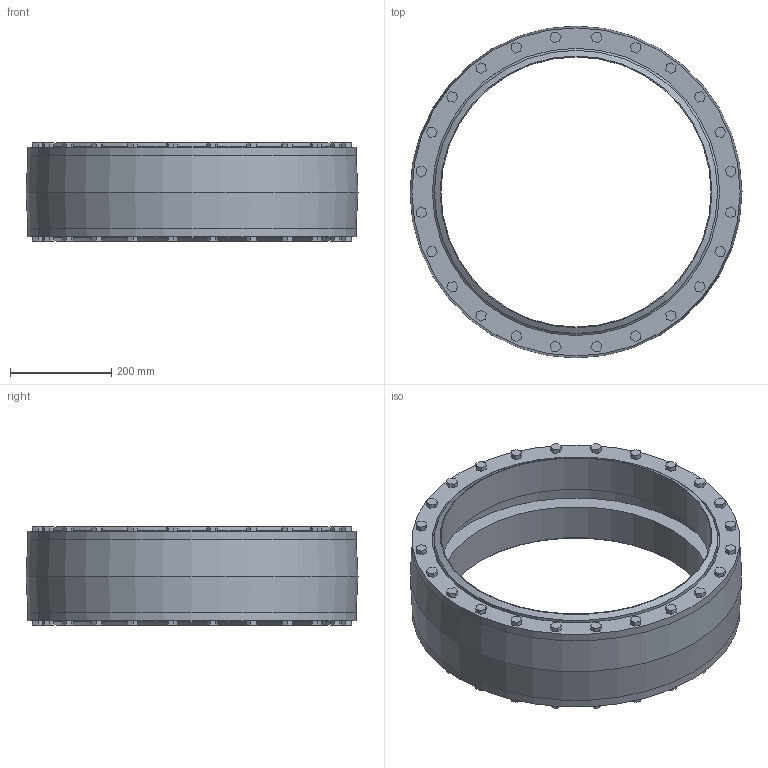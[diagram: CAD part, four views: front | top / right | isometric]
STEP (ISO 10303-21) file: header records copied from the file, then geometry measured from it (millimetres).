
FILE_DESCRIPTION(/* description */ ('VIC EXPANSION JOINT COUPLING 152-A','CAx-IF Rec.Pracs.---Representation and Presentation of Product Manufacturing Information (PMI)---4.0---2014-10-13'),/* implementation_level */ '2;1');
FILE_NAME(/* name */ 'C:\Users\kkamble\AppData\Roaming\Autodesk\ApplicationPlugins\Back Up\Victaulic_Vic-Ring_Coupling Expansion Joint_Style 152A (OGR)\Victaulic_Vic-Ring_Coupling Expansion Joint_Style 152A (OGR)_22 (550).stp',/* time_stamp */ '2020-09-10T11:34:09+05:00',/* author */ ('jheald'),/* organization */ ('Victaulic'),/* preprocessor_version */ 'ST-DEVELOPER v17.2',/* originating_system */ 'Autodesk Inventor 2019',/* authorisation */ '');
FILE_SCHEMA (('AP242_MANAGED_MODEL_BASED_3D_ENGINEERING_MIM_LF { 1 0 10303 442 1 1 4 }'));
Length unit declared in the file: inch
Products named in the file (1): 152A-22.0
Bounding box: 655.23 x 655.23 x 193.55 mm (x, y, z)
Volume: 16151748 mm3; surface area: 1637082.9 mm2
Topology: 1 solids, 1 shells, 373 faces, 963 edges, 652 vertices
Faces by surface type: plane 350, cylinder 15, cone 6, torus 2
Full cylindrical faces by diameter (mm): 533.4 x2, 558.8 x2, 566.928 x2, 573.278 x2, 593.852 x4, 596.9 x1, 647.7 x2
Entity records: 11760 total; most frequent: CARTESIAN_POINT 2006, ORIENTED_EDGE 1926, DIRECTION 1815, EDGE_CURVE 963, LINE 885, VECTOR 885, VERTEX_POINT 652, AXIS2_PLACEMENT_3D 465
